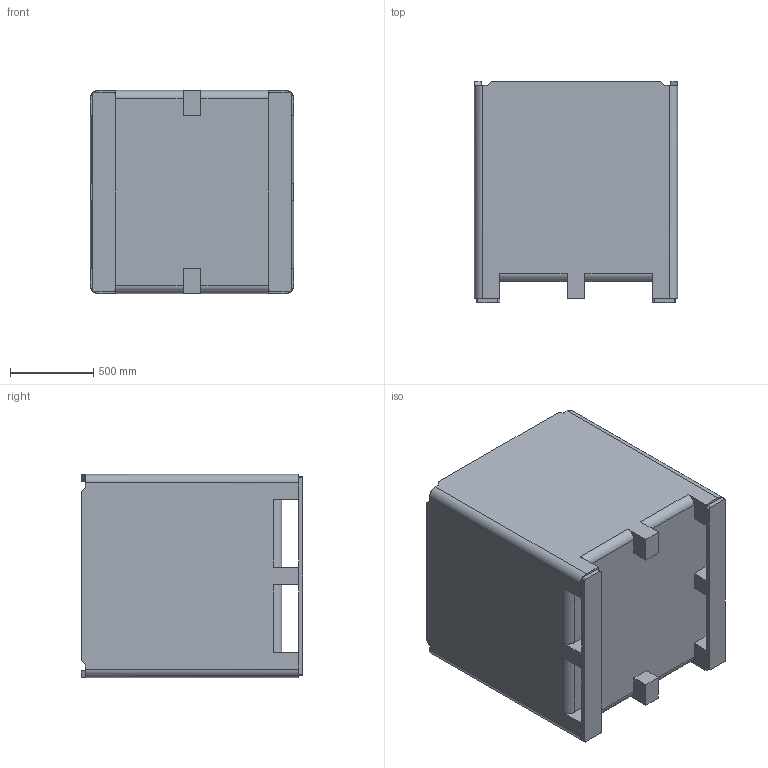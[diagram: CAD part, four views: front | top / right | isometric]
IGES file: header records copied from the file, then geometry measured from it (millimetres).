
Start section: SolidWorks IGES file using analytic representation for surfaces
Global section: file name: C:\Users\bconder\Documents\Production Models\MacroBins\48FV\48FV Block Model.IGS; native system: SolidWorks 2013; preprocessor: SolidWorks 2013; author: bconder; date: 130603.104748; units: inch
Bounding box: 1222.38 x 1333.5 x 1222.38 mm (x, y, z)
Surface area: 14911793.8 mm2 (no closed solid volume)
Topology: 0 solids, 0 shells, 102 faces, 1132 edges, 1130 vertices
Faces by surface type: bspline 66, revolution 36
